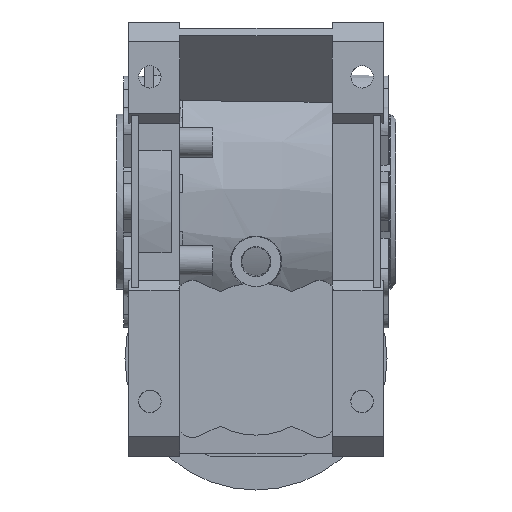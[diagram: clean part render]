
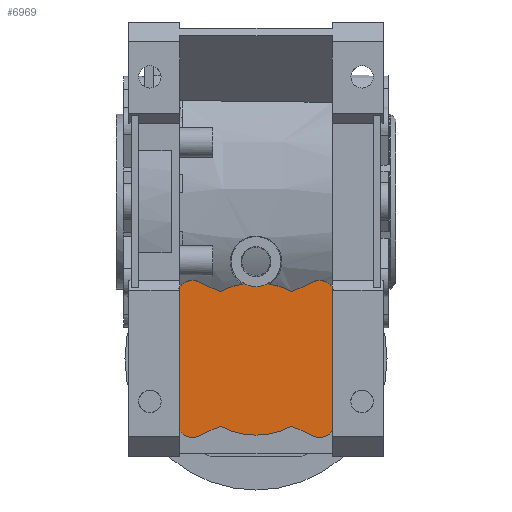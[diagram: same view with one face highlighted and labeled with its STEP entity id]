
A CAD part, front view. The second image highlights one B-rep face of the part: STEP entity #6969.
In plain terms, the highlighted planar face has unit normal (0, -1, 0).
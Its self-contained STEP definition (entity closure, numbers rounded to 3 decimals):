
#223 = CARTESIAN_POINT ( 'NONE',  ( 22.92, -71.5, -93.894 ) ) ;
#279 = ORIENTED_EDGE ( 'NONE', *, *, #12382, .F. ) ;
#553 = DIRECTION ( 'NONE',  ( 0., 0., 1. ) ) ;
#730 = CIRCLE ( 'NONE', #23939, 6. ) ;
#771 = LINE ( 'NONE', #27345, #13055 ) ;
#1010 = DIRECTION ( 'NONE',  ( 0., 1., 0. ) ) ;
#1043 = DIRECTION ( 'NONE',  ( 0., 1., 0. ) ) ;
#1588 = CARTESIAN_POINT ( 'NONE',  ( 0., -71.5, -24. ) ) ;
#2522 = CARTESIAN_POINT ( 'NONE',  ( 14.366, -71.5, -36.095 ) ) ;
#2537 = CIRCLE ( 'NONE', #19627, 30.5 ) ;
#3392 = EDGE_CURVE ( 'NONE', #19798, #15072, #12779, .T. ) ;
#3675 = EDGE_CURVE ( 'NONE', #15072, #8909, #23411, .T. ) ;
#3803 = DIRECTION ( 'NONE',  ( 0., 0., -1. ) ) ;
#4802 = DIRECTION ( 'NONE',  ( 0.906, 0., 0.423 ) ) ;
#5230 = CARTESIAN_POINT ( 'NONE',  ( -25.456, -71.5, -88.456 ) ) ;
#5332 = DIRECTION ( 'NONE',  ( 0.906, 0., -0.423 ) ) ;
#5894 = CARTESIAN_POINT ( 'NONE',  ( -14.366, -71.5, -89.905 ) ) ;
#6050 = VECTOR ( 'NONE', #20991, 1000. ) ;
#6583 = CIRCLE ( 'NONE', #7402, 6. ) ;
#6969 = ADVANCED_FACE ( 'NONE', ( #23278 ), #14081, .F. ) ;
#7402 = AXIS2_PLACEMENT_3D ( 'NONE', #5230, #20515, #7438 ) ;
#7413 = LINE ( 'NONE', #18824, #6050 ) ;
#7438 = DIRECTION ( 'NONE',  ( 0., 0., 1. ) ) ;
#7676 = ORIENTED_EDGE ( 'NONE', *, *, #14673, .F. ) ;
#7996 = CARTESIAN_POINT ( 'NONE',  ( -30.5, -71.5, -91.705 ) ) ;
#8909 = VERTEX_POINT ( 'NONE', #16283 ) ;
#9066 = CARTESIAN_POINT ( 'NONE',  ( 30.5, -71.5, -91.705 ) ) ;
#9192 = ORIENTED_EDGE ( 'NONE', *, *, #22159, .F. ) ;
#9234 = CARTESIAN_POINT ( 'NONE',  ( 0., -71.5, -63. ) ) ;
#9399 = AXIS2_PLACEMENT_3D ( 'NONE', #25035, #11940, #27206 ) ;
#9445 = AXIS2_PLACEMENT_3D ( 'NONE', #1588, #16890, #3803 ) ;
#9551 = VERTEX_POINT ( 'NONE', #26448 ) ;
#9776 = ORIENTED_EDGE ( 'NONE', *, *, #3392, .F. ) ;
#9781 = ORIENTED_EDGE ( 'NONE', *, *, #12129, .F. ) ;
#9993 = AXIS2_PLACEMENT_3D ( 'NONE', #23938, #10816, #26090 ) ;
#10192 = EDGE_CURVE ( 'NONE', #27075, #14980, #2537, .T. ) ;
#10308 = DIRECTION ( 'NONE',  ( -0.906, 0., -0.423 ) ) ;
#10395 = AXIS2_PLACEMENT_3D ( 'NONE', #24785, #11678, #26952 ) ;
#10816 = DIRECTION ( 'NONE',  ( 0., 1., 0. ) ) ;
#11070 = VECTOR ( 'NONE', #10308, 1000. ) ;
#11129 = VERTEX_POINT ( 'NONE', #223 ) ;
#11131 = CARTESIAN_POINT ( 'NONE',  ( 22.92, -71.5, -93.894 ) ) ;
#11154 = CARTESIAN_POINT ( 'NONE',  ( -14.366, -71.5, -89.905 ) ) ;
#11287 = CARTESIAN_POINT ( 'NONE',  ( 22.92, -71.5, -32.106 ) ) ;
#11317 = VECTOR ( 'NONE', #13308, 1000. ) ;
#11395 = DIRECTION ( 'NONE',  ( 0., 0., 1. ) ) ;
#11466 = ORIENTED_EDGE ( 'NONE', *, *, #11704, .F. ) ;
#11678 = DIRECTION ( 'NONE',  ( 0., 1., 0. ) ) ;
#11704 = EDGE_CURVE ( 'NONE', #17044, #22514, #771, .T. ) ;
#11940 = DIRECTION ( 'NONE',  ( 0., 1., 0. ) ) ;
#12129 = EDGE_CURVE ( 'NONE', #9551, #14544, #28092, .T. ) ;
#12165 = VECTOR ( 'NONE', #4802, 1000. ) ;
#12244 = CIRCLE ( 'NONE', #10395, 30.5 ) ;
#12382 = EDGE_CURVE ( 'NONE', #8909, #14289, #6583, .T. ) ;
#12762 = EDGE_CURVE ( 'NONE', #11129, #19798, #22971, .T. ) ;
#12779 = CIRCLE ( 'NONE', #21279, 30.5 ) ;
#12969 = EDGE_CURVE ( 'NONE', #25816, #17044, #730, .T. ) ;
#13055 = VECTOR ( 'NONE', #20965, 1000. ) ;
#13308 = DIRECTION ( 'NONE',  ( -0.906, 0., 0.423 ) ) ;
#13610 = DIRECTION ( 'NONE',  ( 0., 1., 0. ) ) ;
#13632 = EDGE_LOOP ( 'NONE', ( #279, #15135, #9776, #26331, #17404, #11466, #18180, #24595, #7676, #14594, #16894, #9192, #9781, #17741 ) ) ;
#14051 = CARTESIAN_POINT ( 'NONE',  ( 25.456, -71.5, -37.544 ) ) ;
#14081 = PLANE ( 'NONE',  #20030 ) ;
#14289 = VERTEX_POINT ( 'NONE', #7996 ) ;
#14314 = EDGE_CURVE ( 'NONE', #14980, #15889, #23610, .T. ) ;
#14544 = VERTEX_POINT ( 'NONE', #15308 ) ;
#14594 = ORIENTED_EDGE ( 'NONE', *, *, #14314, .F. ) ;
#14673 = EDGE_CURVE ( 'NONE', #15889, #24803, #12244, .T. ) ;
#14834 = CARTESIAN_POINT ( 'NONE',  ( -4.645, -71.5, -32.856 ) ) ;
#14980 = VERTEX_POINT ( 'NONE', #14834 ) ;
#15072 = VERTEX_POINT ( 'NONE', #11154 ) ;
#15135 = ORIENTED_EDGE ( 'NONE', *, *, #3675, .F. ) ;
#15308 = CARTESIAN_POINT ( 'NONE',  ( -22.92, -71.5, -32.106 ) ) ;
#15889 = VERTEX_POINT ( 'NONE', #17054 ) ;
#16254 = DIRECTION ( 'NONE',  ( 0., 0., 1. ) ) ;
#16283 = CARTESIAN_POINT ( 'NONE',  ( -22.92, -71.5, -93.894 ) ) ;
#16286 = DIRECTION ( 'NONE',  ( 0., 0., 1. ) ) ;
#16890 = DIRECTION ( 'NONE',  ( 0., -1., 0. ) ) ;
#16894 = ORIENTED_EDGE ( 'NONE', *, *, #10192, .F. ) ;
#17044 = VERTEX_POINT ( 'NONE', #26402 ) ;
#17054 = CARTESIAN_POINT ( 'NONE',  ( 4.645, -71.5, -32.856 ) ) ;
#17280 = CIRCLE ( 'NONE', #9993, 6. ) ;
#17404 = ORIENTED_EDGE ( 'NONE', *, *, #28156, .F. ) ;
#17741 = ORIENTED_EDGE ( 'NONE', *, *, #26801, .F. ) ;
#17987 = LINE ( 'NONE', #11287, #12165 ) ;
#18180 = ORIENTED_EDGE ( 'NONE', *, *, #12969, .F. ) ;
#18824 = CARTESIAN_POINT ( 'NONE',  ( -30.5, -71.5, -68. ) ) ;
#19627 = AXIS2_PLACEMENT_3D ( 'NONE', #9234, #24505, #11395 ) ;
#19798 = VERTEX_POINT ( 'NONE', #21202 ) ;
#20030 = AXIS2_PLACEMENT_3D ( 'NONE', #27161, #1043, #16286 ) ;
#20515 = DIRECTION ( 'NONE',  ( 0., 1., 0. ) ) ;
#20533 = EDGE_CURVE ( 'NONE', #24803, #25816, #17987, .T. ) ;
#20965 = DIRECTION ( 'NONE',  ( 0., 0., -1. ) ) ;
#20991 = DIRECTION ( 'NONE',  ( 0., 0., 1. ) ) ;
#21202 = CARTESIAN_POINT ( 'NONE',  ( 14.366, -71.5, -89.905 ) ) ;
#21279 = AXIS2_PLACEMENT_3D ( 'NONE', #26702, #13610, #553 ) ;
#21758 = LINE ( 'NONE', #26566, #26807 ) ;
#22159 = EDGE_CURVE ( 'NONE', #14544, #27075, #21758, .T. ) ;
#22420 = CARTESIAN_POINT ( 'NONE',  ( -14.366, -71.5, -36.095 ) ) ;
#22514 = VERTEX_POINT ( 'NONE', #9066 ) ;
#22971 = LINE ( 'NONE', #11131, #11317 ) ;
#23278 = FACE_OUTER_BOUND ( 'NONE', #13632, .T. ) ;
#23411 = LINE ( 'NONE', #5894, #11070 ) ;
#23610 = CIRCLE ( 'NONE', #9445, 10. ) ;
#23938 = CARTESIAN_POINT ( 'NONE',  ( 25.456, -71.5, -88.456 ) ) ;
#23939 = AXIS2_PLACEMENT_3D ( 'NONE', #14051, #1010, #16254 ) ;
#24505 = DIRECTION ( 'NONE',  ( 0., 1., 0. ) ) ;
#24595 = ORIENTED_EDGE ( 'NONE', *, *, #20533, .F. ) ;
#24785 = CARTESIAN_POINT ( 'NONE',  ( 0., -71.5, -63. ) ) ;
#24803 = VERTEX_POINT ( 'NONE', #2522 ) ;
#25035 = CARTESIAN_POINT ( 'NONE',  ( -25.456, -71.5, -37.544 ) ) ;
#25816 = VERTEX_POINT ( 'NONE', #28265 ) ;
#26090 = DIRECTION ( 'NONE',  ( 0., 0., 1. ) ) ;
#26331 = ORIENTED_EDGE ( 'NONE', *, *, #12762, .F. ) ;
#26402 = CARTESIAN_POINT ( 'NONE',  ( 30.5, -71.5, -34.295 ) ) ;
#26448 = CARTESIAN_POINT ( 'NONE',  ( -30.5, -71.5, -34.295 ) ) ;
#26566 = CARTESIAN_POINT ( 'NONE',  ( -22.92, -71.5, -32.106 ) ) ;
#26702 = CARTESIAN_POINT ( 'NONE',  ( 0., -71.5, -63. ) ) ;
#26801 = EDGE_CURVE ( 'NONE', #14289, #9551, #7413, .T. ) ;
#26807 = VECTOR ( 'NONE', #5332, 1000. ) ;
#26952 = DIRECTION ( 'NONE',  ( 0., 0., 1. ) ) ;
#27075 = VERTEX_POINT ( 'NONE', #22420 ) ;
#27161 = CARTESIAN_POINT ( 'NONE',  ( 0., -71.5, -68. ) ) ;
#27206 = DIRECTION ( 'NONE',  ( 0., 0., 1. ) ) ;
#27345 = CARTESIAN_POINT ( 'NONE',  ( 30.5, -71.5, -68. ) ) ;
#28092 = CIRCLE ( 'NONE', #9399, 6. ) ;
#28156 = EDGE_CURVE ( 'NONE', #22514, #11129, #17280, .T. ) ;
#28265 = CARTESIAN_POINT ( 'NONE',  ( 22.92, -71.5, -32.106 ) ) ;
